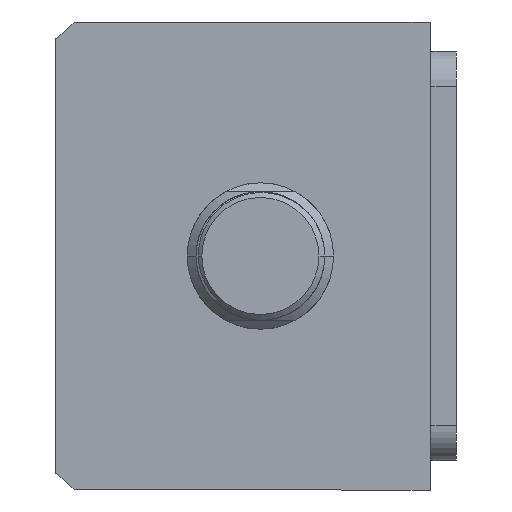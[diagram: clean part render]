
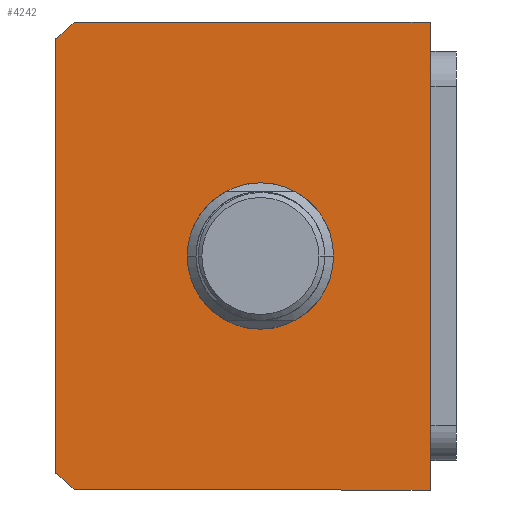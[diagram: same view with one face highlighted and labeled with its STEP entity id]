
A CAD part, front view. The second image highlights one B-rep face of the part: STEP entity #4242.
In plain terms, the highlighted planar face has unit normal (0, -1, 0) as drawn and (0, 0, -1) by its records, which use the part's own axes.
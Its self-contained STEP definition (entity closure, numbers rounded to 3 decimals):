
#467 = CIRCLE ( 'NONE', #12272, 12.5 ) ;
#870 = CARTESIAN_POINT ( 'NONE',  ( -12.5, 3., 0. ) ) ;
#896 = CARTESIAN_POINT ( 'NONE',  ( 12.5, 3., 0. ) ) ;
#929 = LINE ( 'NONE', #1684, #7804 ) ;
#963 = DIRECTION ( 'NONE',  ( 1., 0., 0. ) ) ;
#1017 = EDGE_LOOP ( 'NONE', ( #1177, #12201, #11071, #5302, #6456, #13406 ) ) ;
#1177 = ORIENTED_EDGE ( 'NONE', *, *, #14694, .F. ) ;
#1553 = VERTEX_POINT ( 'NONE', #896 ) ;
#1684 = CARTESIAN_POINT ( 'NONE',  ( -40., 32., 0. ) ) ;
#2037 = VERTEX_POINT ( 'NONE', #10952 ) ;
#2362 = DIRECTION ( 'NONE',  ( 0., 0., 1. ) ) ;
#2383 = CARTESIAN_POINT ( 'NONE',  ( 0., 3., 0. ) ) ;
#2395 = FACE_OUTER_BOUND ( 'NONE', #1017, .T. ) ;
#2610 = CARTESIAN_POINT ( 'NONE',  ( -37.094, -32., 0. ) ) ;
#2849 = LINE ( 'NONE', #7327, #16989 ) ;
#3119 = VERTEX_POINT ( 'NONE', #4091 ) ;
#3237 = DIRECTION ( 'NONE',  ( 0., 1., 0. ) ) ;
#3722 = DIRECTION ( 'NONE',  ( 0., 0., 1. ) ) ;
#3766 = DIRECTION ( 'NONE',  ( 1., 0., 0. ) ) ;
#4091 = CARTESIAN_POINT ( 'NONE',  ( -40., 32., 0. ) ) ;
#4242 = ADVANCED_FACE ( 'NONE', ( #9720, #2395 ), #16009, .F. ) ;
#4598 = CIRCLE ( 'NONE', #16156, 12.5 ) ;
#5023 = CARTESIAN_POINT ( 'NONE',  ( -40., -28.639, 0. ) ) ;
#5225 = VECTOR ( 'NONE', #15949, 1000. ) ;
#5302 = ORIENTED_EDGE ( 'NONE', *, *, #17436, .F. ) ;
#5504 = LINE ( 'NONE', #13392, #16014 ) ;
#5692 = VERTEX_POINT ( 'NONE', #5023 ) ;
#5948 = CARTESIAN_POINT ( 'NONE',  ( 0., 3., 0. ) ) ;
#6097 = VERTEX_POINT ( 'NONE', #8637 ) ;
#6456 = ORIENTED_EDGE ( 'NONE', *, *, #8740, .F. ) ;
#6767 = AXIS2_PLACEMENT_3D ( 'NONE', #5948, #15534, #7330 ) ;
#7327 = CARTESIAN_POINT ( 'NONE',  ( 40., 32., 0. ) ) ;
#7330 = DIRECTION ( 'NONE',  ( 1., 0., 0. ) ) ;
#7389 = CARTESIAN_POINT ( 'NONE',  ( 37.094, -32., 0. ) ) ;
#7633 = CARTESIAN_POINT ( 'NONE',  ( -40., -32., 0. ) ) ;
#7804 = VECTOR ( 'NONE', #11299, 1000. ) ;
#8283 = CIRCLE ( 'NONE', #12944, 51. ) ;
#8637 = CARTESIAN_POINT ( 'NONE',  ( 40., -28.639, 0. ) ) ;
#8740 = EDGE_CURVE ( 'NONE', #17475, #6097, #12270, .T. ) ;
#8905 = EDGE_LOOP ( 'NONE', ( #10387, #12346 ) ) ;
#8914 = EDGE_CURVE ( 'NONE', #12067, #1553, #467, .T. ) ;
#9209 = DIRECTION ( 'NONE',  ( 0., 0., 1. ) ) ;
#9720 = FACE_BOUND ( 'NONE', #8905, .T. ) ;
#10387 = ORIENTED_EDGE ( 'NONE', *, *, #16267, .T. ) ;
#10605 = CARTESIAN_POINT ( 'NONE',  ( 0., 3., 0. ) ) ;
#10952 = CARTESIAN_POINT ( 'NONE',  ( 40., 32., 0. ) ) ;
#11071 = ORIENTED_EDGE ( 'NONE', *, *, #12173, .F. ) ;
#11299 = DIRECTION ( 'NONE',  ( 0., -1., 0. ) ) ;
#11967 = DIRECTION ( 'NONE',  ( 1., 0., 0. ) ) ;
#11983 = AXIS2_PLACEMENT_3D ( 'NONE', #17373, #3722, #13305 ) ;
#11985 = DIRECTION ( 'NONE',  ( 0., 0., 1. ) ) ;
#12067 = VERTEX_POINT ( 'NONE', #870 ) ;
#12084 = DIRECTION ( 'NONE',  ( -1., 0., 0. ) ) ;
#12173 = EDGE_CURVE ( 'NONE', #2037, #3119, #5504, .T. ) ;
#12201 = ORIENTED_EDGE ( 'NONE', *, *, #17288, .F. ) ;
#12270 = CIRCLE ( 'NONE', #6767, 51. ) ;
#12272 = AXIS2_PLACEMENT_3D ( 'NONE', #17377, #9209, #963 ) ;
#12346 = ORIENTED_EDGE ( 'NONE', *, *, #8914, .T. ) ;
#12510 = LINE ( 'NONE', #7633, #5225 ) ;
#12944 = AXIS2_PLACEMENT_3D ( 'NONE', #10605, #2362, #11967 ) ;
#13305 = DIRECTION ( 'NONE',  ( 1., 0., 0. ) ) ;
#13392 = CARTESIAN_POINT ( 'NONE',  ( -40., 32., 0. ) ) ;
#13406 = ORIENTED_EDGE ( 'NONE', *, *, #17725, .F. ) ;
#14405 = VERTEX_POINT ( 'NONE', #2610 ) ;
#14694 = EDGE_CURVE ( 'NONE', #5692, #14405, #8283, .T. ) ;
#15534 = DIRECTION ( 'NONE',  ( 0., 0., 1. ) ) ;
#15949 = DIRECTION ( 'NONE',  ( 1., 0., 0. ) ) ;
#16009 = PLANE ( 'NONE',  #11983 ) ;
#16014 = VECTOR ( 'NONE', #12084, 1000. ) ;
#16156 = AXIS2_PLACEMENT_3D ( 'NONE', #2383, #11985, #3766 ) ;
#16267 = EDGE_CURVE ( 'NONE', #1553, #12067, #4598, .T. ) ;
#16989 = VECTOR ( 'NONE', #3237, 1000. ) ;
#17288 = EDGE_CURVE ( 'NONE', #3119, #5692, #929, .T. ) ;
#17373 = CARTESIAN_POINT ( 'NONE',  ( 0., 0., 0. ) ) ;
#17377 = CARTESIAN_POINT ( 'NONE',  ( 0., 3., 0. ) ) ;
#17436 = EDGE_CURVE ( 'NONE', #6097, #2037, #2849, .T. ) ;
#17475 = VERTEX_POINT ( 'NONE', #7389 ) ;
#17725 = EDGE_CURVE ( 'NONE', #14405, #17475, #12510, .T. ) ;
